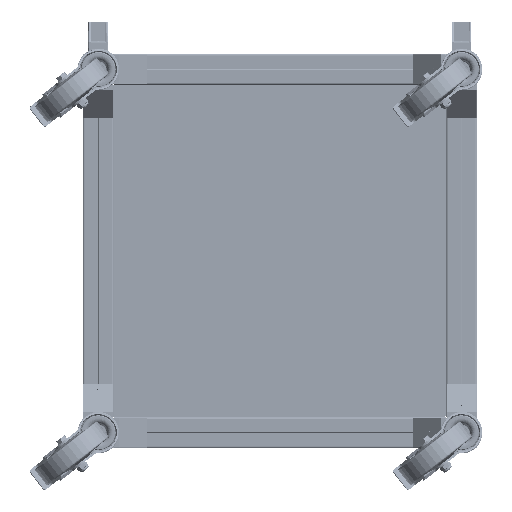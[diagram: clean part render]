
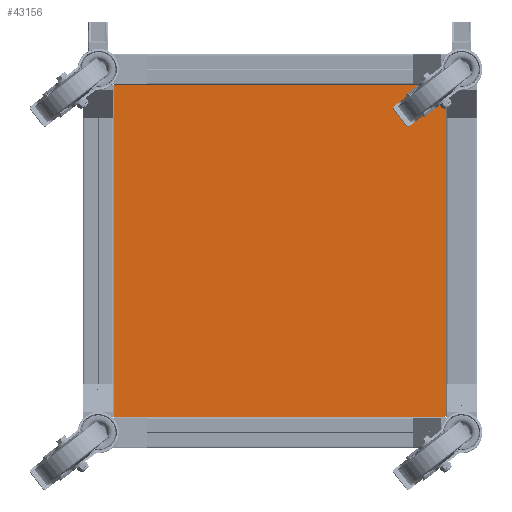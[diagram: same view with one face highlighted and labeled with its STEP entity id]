
A CAD part, front view. The second image highlights one B-rep face of the part: STEP entity #43156.
In plain terms, the highlighted planar face has unit normal (0, -1, 0).
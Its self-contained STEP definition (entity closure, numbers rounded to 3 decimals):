
#30 = VERTEX_POINT ( 'NONE', #149213 ) ;
#1077 = ORIENTED_EDGE ( 'NONE', *, *, #45066, .F. ) ;
#1833 = ORIENTED_EDGE ( 'NONE', *, *, #149407, .F. ) ;
#1994 = DIRECTION ( 'NONE',  ( 0., 0., -1. ) ) ;
#3396 = ORIENTED_EDGE ( 'NONE', *, *, #44951, .F. ) ;
#3769 = AXIS2_PLACEMENT_3D ( 'NONE', #102054, #90873, #30891 ) ;
#5203 = EDGE_CURVE ( 'NONE', #27430, #75906, #59762, .T. ) ;
#5410 = LINE ( 'NONE', #141204, #27881 ) ;
#7269 = LINE ( 'NONE', #151150, #102596 ) ;
#7407 = CARTESIAN_POINT ( 'NONE',  ( 209.5, 0., -219. ) ) ;
#9460 = ORIENTED_EDGE ( 'NONE', *, *, #50633, .T. ) ;
#14521 = EDGE_CURVE ( 'NONE', #55170, #51290, #26663, .T. ) ;
#16417 = DIRECTION ( 'NONE',  ( 0., 0., 1. ) ) ;
#16903 = CARTESIAN_POINT ( 'NONE',  ( -209.5, 0., 219. ) ) ;
#18936 = VECTOR ( 'NONE', #133119, 1000. ) ;
#20395 = LINE ( 'NONE', #105863, #118654 ) ;
#23685 = CARTESIAN_POINT ( 'NONE',  ( 219., 0., -209.5 ) ) ;
#26663 = LINE ( 'NONE', #7407, #29090 ) ;
#27430 = VERTEX_POINT ( 'NONE', #91985 ) ;
#27868 = VERTEX_POINT ( 'NONE', #48506 ) ;
#27881 = VECTOR ( 'NONE', #127644, 1000. ) ;
#28852 = LINE ( 'NONE', #16903, #43815 ) ;
#29090 = VECTOR ( 'NONE', #69720, 1000. ) ;
#29185 = DIRECTION ( 'NONE',  ( 0., 0., -1. ) ) ;
#29987 = LINE ( 'NONE', #78734, #121187 ) ;
#30337 = FACE_OUTER_BOUND ( 'NONE', #110121, .T. ) ;
#30891 = DIRECTION ( 'NONE',  ( 0., 0., 1. ) ) ;
#31200 = VERTEX_POINT ( 'NONE', #96688 ) ;
#33077 = AXIS2_PLACEMENT_3D ( 'NONE', #71087, #131023, #153461 ) ;
#38198 = CIRCLE ( 'NONE', #33077, 1.5 ) ;
#39077 = CARTESIAN_POINT ( 'NONE',  ( -205., 0., -213. ) ) ;
#39697 = LINE ( 'NONE', #126795, #65319 ) ;
#39737 = VECTOR ( 'NONE', #29185, 1000. ) ;
#40987 = VERTEX_POINT ( 'NONE', #67021 ) ;
#41143 = LINE ( 'NONE', #138669, #39737 ) ;
#42028 = AXIS2_PLACEMENT_3D ( 'NONE', #89516, #67075, #90298 ) ;
#42409 = DIRECTION ( 'NONE',  ( 0., 0., 1. ) ) ;
#43156 = ADVANCED_FACE ( 'NONE', ( #30337, #126249, #78314 ), #55901, .F. ) ;
#43815 = VECTOR ( 'NONE', #42409, 1000. ) ;
#43987 = EDGE_CURVE ( 'NONE', #75906, #152431, #41143, .T. ) ;
#44951 = EDGE_CURVE ( 'NONE', #51290, #88191, #29987, .T. ) ;
#45066 = EDGE_CURVE ( 'NONE', #69640, #55170, #20395, .T. ) ;
#45460 = VERTEX_POINT ( 'NONE', #105280 ) ;
#47017 = EDGE_CURVE ( 'NONE', #40987, #31200, #7269, .T. ) ;
#48506 = CARTESIAN_POINT ( 'NONE',  ( -209.5, 0., -209.5 ) ) ;
#50633 = EDGE_CURVE ( 'NONE', #88823, #150852, #141254, .T. ) ;
#51290 = VERTEX_POINT ( 'NONE', #51967 ) ;
#51967 = CARTESIAN_POINT ( 'NONE',  ( 209.5, 0., -219. ) ) ;
#52352 = DIRECTION ( 'NONE',  ( 0., 1., 0. ) ) ;
#53841 = DIRECTION ( 'NONE',  ( 1., 0., 0. ) ) ;
#55170 = VERTEX_POINT ( 'NONE', #129076 ) ;
#55901 = PLANE ( 'NONE',  #42028 ) ;
#58680 = DIRECTION ( 'NONE',  ( -1., 0., 0. ) ) ;
#59762 = LINE ( 'NONE', #71733, #85885 ) ;
#59947 = EDGE_LOOP ( 'NONE', ( #100073, #86642 ) ) ;
#60226 = EDGE_CURVE ( 'NONE', #83846, #30, #38198, .T. ) ;
#61888 = CARTESIAN_POINT ( 'NONE',  ( 205., 0., -214.5 ) ) ;
#62357 = CIRCLE ( 'NONE', #3769, 1.5 ) ;
#64499 = DIRECTION ( 'NONE',  ( 0., 0., 1. ) ) ;
#65319 = VECTOR ( 'NONE', #64499, 1000. ) ;
#65586 = CARTESIAN_POINT ( 'NONE',  ( 219., 0., 209.5 ) ) ;
#65952 = DIRECTION ( 'NONE',  ( -1., 0., 0. ) ) ;
#66069 = CARTESIAN_POINT ( 'NONE',  ( -209.5, 0., -209.5 ) ) ;
#66636 = EDGE_CURVE ( 'NONE', #27868, #40987, #152411, .T. ) ;
#67021 = CARTESIAN_POINT ( 'NONE',  ( -219., 0., -209.5 ) ) ;
#67075 = DIRECTION ( 'NONE',  ( 0., 1., 0. ) ) ;
#68986 = LINE ( 'NONE', #102561, #146598 ) ;
#69640 = VERTEX_POINT ( 'NONE', #144686 ) ;
#69720 = DIRECTION ( 'NONE',  ( 0., 0., -1. ) ) ;
#70926 = EDGE_CURVE ( 'NONE', #152431, #117496, #68986, .T. ) ;
#71087 = CARTESIAN_POINT ( 'NONE',  ( 205., 0., -214.5 ) ) ;
#71733 = CARTESIAN_POINT ( 'NONE',  ( -209.5, 0., 219. ) ) ;
#72388 = VECTOR ( 'NONE', #112465, 1000. ) ;
#75906 = VERTEX_POINT ( 'NONE', #97292 ) ;
#78314 = FACE_BOUND ( 'NONE', #59947, .T. ) ;
#78734 = CARTESIAN_POINT ( 'NONE',  ( -209.5, 0., -219. ) ) ;
#79901 = EDGE_CURVE ( 'NONE', #31200, #45460, #5410, .T. ) ;
#81788 = EDGE_LOOP ( 'NONE', ( #9460, #154037 ) ) ;
#82504 = AXIS2_PLACEMENT_3D ( 'NONE', #136252, #52352, #16417 ) ;
#83846 = VERTEX_POINT ( 'NONE', #143696 ) ;
#85885 = VECTOR ( 'NONE', #109272, 1000. ) ;
#86642 = ORIENTED_EDGE ( 'NONE', *, *, #140222, .T. ) ;
#88191 = VERTEX_POINT ( 'NONE', #102881 ) ;
#88823 = VERTEX_POINT ( 'NONE', #102482 ) ;
#89516 = CARTESIAN_POINT ( 'NONE',  ( 0., 0., 0. ) ) ;
#90298 = DIRECTION ( 'NONE',  ( 0., 0., 1. ) ) ;
#90873 = DIRECTION ( 'NONE',  ( 0., 1., 0. ) ) ;
#91985 = CARTESIAN_POINT ( 'NONE',  ( -209.5, 0., 219. ) ) ;
#96688 = CARTESIAN_POINT ( 'NONE',  ( -219., 0., 209.5 ) ) ;
#97292 = CARTESIAN_POINT ( 'NONE',  ( 209.5, 0., 219. ) ) ;
#97446 = ORIENTED_EDGE ( 'NONE', *, *, #70926, .F. ) ;
#100073 = ORIENTED_EDGE ( 'NONE', *, *, #60226, .T. ) ;
#102054 = CARTESIAN_POINT ( 'NONE',  ( -205., 0., -214.5 ) ) ;
#102482 = CARTESIAN_POINT ( 'NONE',  ( -205., 0., -216. ) ) ;
#102561 = CARTESIAN_POINT ( 'NONE',  ( 209.5, 0., 209.5 ) ) ;
#102596 = VECTOR ( 'NONE', #103948, 1000. ) ;
#102881 = CARTESIAN_POINT ( 'NONE',  ( -209.5, 0., -219. ) ) ;
#103948 = DIRECTION ( 'NONE',  ( 0., 0., 1. ) ) ;
#105280 = CARTESIAN_POINT ( 'NONE',  ( -209.5, 0., 209.5 ) ) ;
#105863 = CARTESIAN_POINT ( 'NONE',  ( 209.5, 0., -209.5 ) ) ;
#105928 = ORIENTED_EDGE ( 'NONE', *, *, #5203, .F. ) ;
#109246 = CIRCLE ( 'NONE', #114380, 1.5 ) ;
#109272 = DIRECTION ( 'NONE',  ( 1., 0., 0. ) ) ;
#110121 = EDGE_LOOP ( 'NONE', ( #115414, #1077, #1833, #97446, #117622, #105928, #144619, #155246, #121014, #112003, #136872, #3396 ) ) ;
#112003 = ORIENTED_EDGE ( 'NONE', *, *, #66636, .F. ) ;
#112465 = DIRECTION ( 'NONE',  ( -1., 0., 0. ) ) ;
#112490 = EDGE_CURVE ( 'NONE', #45460, #27430, #28852, .T. ) ;
#114380 = AXIS2_PLACEMENT_3D ( 'NONE', #61888, #134602, #1994 ) ;
#115414 = ORIENTED_EDGE ( 'NONE', *, *, #14521, .F. ) ;
#117496 = VERTEX_POINT ( 'NONE', #65586 ) ;
#117622 = ORIENTED_EDGE ( 'NONE', *, *, #43987, .F. ) ;
#118654 = VECTOR ( 'NONE', #58680, 1000. ) ;
#121014 = ORIENTED_EDGE ( 'NONE', *, *, #47017, .F. ) ;
#121187 = VECTOR ( 'NONE', #65952, 1000. ) ;
#126249 = FACE_BOUND ( 'NONE', #81788, .T. ) ;
#126795 = CARTESIAN_POINT ( 'NONE',  ( -209.5, 0., -219. ) ) ;
#127644 = DIRECTION ( 'NONE',  ( 1., 0., 0. ) ) ;
#129076 = CARTESIAN_POINT ( 'NONE',  ( 209.5, 0., -209.5 ) ) ;
#129934 = CARTESIAN_POINT ( 'NONE',  ( 209.5, 0., 209.5 ) ) ;
#131023 = DIRECTION ( 'NONE',  ( 0., 1., 0. ) ) ;
#133119 = DIRECTION ( 'NONE',  ( 0., 0., -1. ) ) ;
#134602 = DIRECTION ( 'NONE',  ( 0., 1., 0. ) ) ;
#135572 = EDGE_CURVE ( 'NONE', #150852, #88823, #62357, .T. ) ;
#136252 = CARTESIAN_POINT ( 'NONE',  ( -205., 0., -214.5 ) ) ;
#136872 = ORIENTED_EDGE ( 'NONE', *, *, #151423, .F. ) ;
#138669 = CARTESIAN_POINT ( 'NONE',  ( 209.5, 0., 219. ) ) ;
#140222 = EDGE_CURVE ( 'NONE', #30, #83846, #109246, .T. ) ;
#141204 = CARTESIAN_POINT ( 'NONE',  ( -209.5, 0., 209.5 ) ) ;
#141254 = CIRCLE ( 'NONE', #82504, 1.5 ) ;
#143696 = CARTESIAN_POINT ( 'NONE',  ( 205., 0., -216. ) ) ;
#144619 = ORIENTED_EDGE ( 'NONE', *, *, #112490, .F. ) ;
#144686 = CARTESIAN_POINT ( 'NONE',  ( 219., 0., -209.5 ) ) ;
#146598 = VECTOR ( 'NONE', #53841, 1000. ) ;
#149213 = CARTESIAN_POINT ( 'NONE',  ( 205., 0., -213. ) ) ;
#149407 = EDGE_CURVE ( 'NONE', #117496, #69640, #155566, .T. ) ;
#150852 = VERTEX_POINT ( 'NONE', #39077 ) ;
#151150 = CARTESIAN_POINT ( 'NONE',  ( -219., 0., -209.5 ) ) ;
#151423 = EDGE_CURVE ( 'NONE', #88191, #27868, #39697, .T. ) ;
#152411 = LINE ( 'NONE', #66069, #72388 ) ;
#152431 = VERTEX_POINT ( 'NONE', #129934 ) ;
#153461 = DIRECTION ( 'NONE',  ( 0., 0., -1. ) ) ;
#154037 = ORIENTED_EDGE ( 'NONE', *, *, #135572, .T. ) ;
#155246 = ORIENTED_EDGE ( 'NONE', *, *, #79901, .F. ) ;
#155566 = LINE ( 'NONE', #23685, #18936 ) ;
